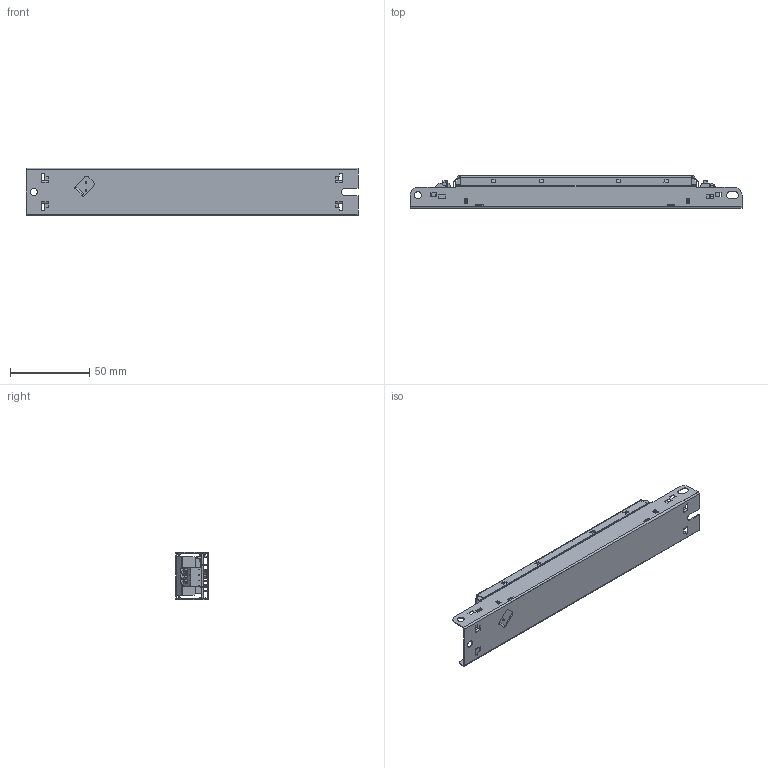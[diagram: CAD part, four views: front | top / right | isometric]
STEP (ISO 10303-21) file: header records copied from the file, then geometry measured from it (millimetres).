
FILE_DESCRIPTION(('Creo Elements/Direct Modeling STEP Export'),'2;1');
FILE_NAME('casing M6.3.stp','2026-02-19T10:28:01',(''),(''),'Creo Elements/Direct Modeling STEP processor for AP214 (Solid Model)','Creo Elements/Direct Modeling 20.7 06-Apr-2024 (C) Parametric Technology GmbH','');
FILE_SCHEMA(('AUTOMOTIVE_DESIGN { 1 0 10303 214 1 1 1 1 }'));
Length unit declared in the file: millimetre
Products named in the file (9): JUMP_WIRE_8_1_1.PRT; NFC antenna; board; output terminal; input terminal; PCB; casing bottom; casing top; casing M6.3
Assembly tree (8 placements, depth 3):
  casing M6.3
    casing top
    casing bottom
    PCB
      input terminal
      output terminal
      board
      NFC antenna
      JUMP_WIRE_8_1_1.PRT
Bounding box: 210 x 20.8 x 30 mm (x, y, z)
Volume: 17578.2 mm3; surface area: 54651.8 mm2
Topology: 7 solids, 22 shells, 1195 faces, 3161 edges, 2066 vertices
Faces by surface type: plane 676, cylinder 463, bspline 36, torus 14, sphere 4, extrusion 2
Entity records: 38359 total; most frequent: CARTESIAN_POINT 8002, ORIENTED_EDGE 6314, DIRECTION 5840, EDGE_CURVE 3157, VECTOR 2128, LINE 2126, VERTEX_POINT 2066, AXIS2_PLACEMENT_3D 1856
